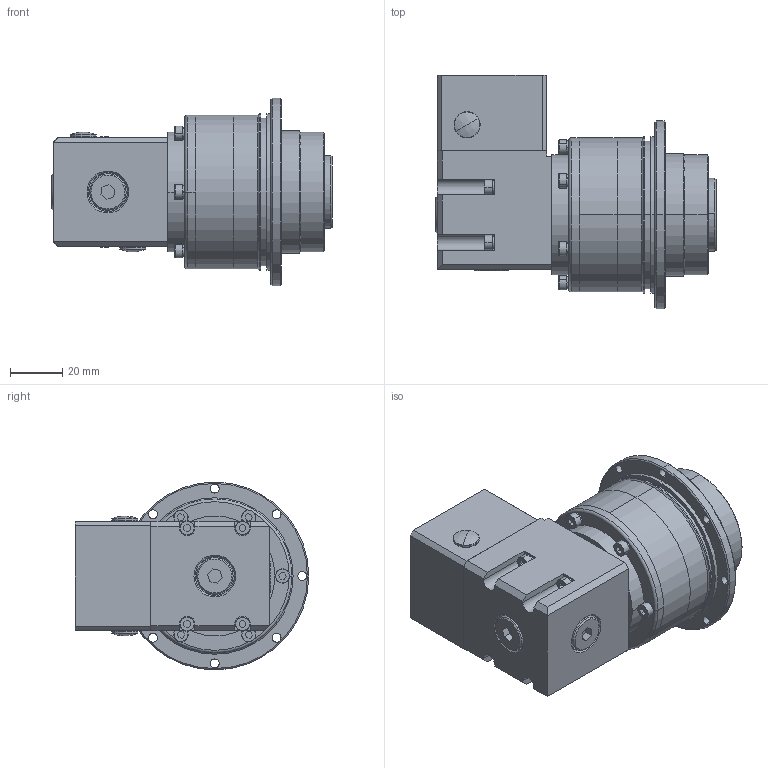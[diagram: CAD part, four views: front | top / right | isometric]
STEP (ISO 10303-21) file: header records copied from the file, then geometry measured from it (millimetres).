
FILE_DESCRIPTION (( 'STEP AP203' ), '1' );
FILE_NAME ('ADR047L2-OP2-8-25-30-46-M4.STEP', '2020-03-11T03:33:08', ( 'dell' ), ( '' ), 'SwSTEP 2.0', 'SolidWorks 2018', '' );
FILE_SCHEMA (( 'CONFIG_CONTROL_DESIGN' ));
Length unit declared in the file: millimetre
Products named in the file (1): ADR047L2-OP2-8-25-30-46-M4
Bounding box: 107.5 x 89.5 x 72 mm (x, y, z)
Volume: 155613.3 mm3; surface area: 80430.8 mm2
Topology: 41 solids, 41 shells, 972 faces, 2292 edges, 1444 vertices
Faces by surface type: cylinder 406, plane 343, cone 114, torus 105, sphere 4
Entity records: 29045 total; most frequent: CARTESIAN_POINT 5767, DIRECTION 5241, ORIENTED_EDGE 4512, EDGE_CURVE 2256, AXIS2_PLACEMENT_3D 2085, VERTEX_POINT 1444, EDGE_LOOP 1154, CIRCLE 1112
